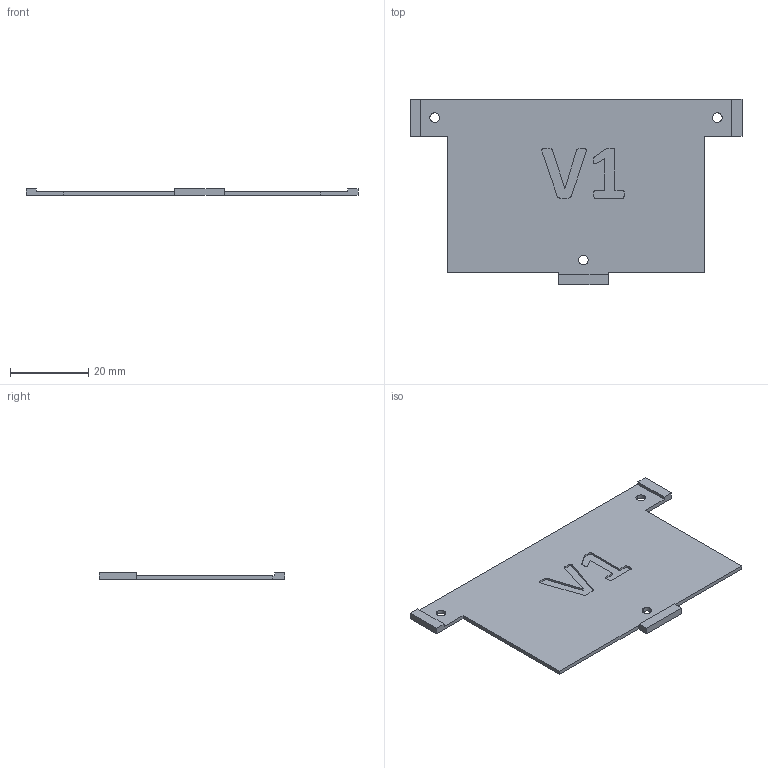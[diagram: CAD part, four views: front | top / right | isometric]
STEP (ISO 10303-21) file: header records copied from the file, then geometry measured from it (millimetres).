
FILE_DESCRIPTION (( 'STEP AP214' ), '1' );
FILE_NAME ('Battery Cover - Wall Clock V2.STEP', '2022-01-29T17:18:05', ( '' ), ( '' ), 'SwSTEP 2.0', 'SolidWorks 2019', '' );
FILE_SCHEMA (( 'AUTOMOTIVE_DESIGN' ));
Length unit declared in the file: inch
Products named in the file (1): Battery Cover - Wall Clock V2
Bounding box: 85.09 x 47.62 x 1.78 mm (x, y, z)
Volume: 3200.6 mm3; surface area: 6690.7 mm2
Topology: 1 solids, 1 shells, 54 faces, 150 edges, 100 vertices
Faces by surface type: plane 34, bspline 14, cylinder 6
Entity records: 2322 total; most frequent: CARTESIAN_POINT 967, ORIENTED_EDGE 300, DIRECTION 216, EDGE_CURVE 150, LINE 110, VECTOR 110, VERTEX_POINT 100, EDGE_LOOP 62
